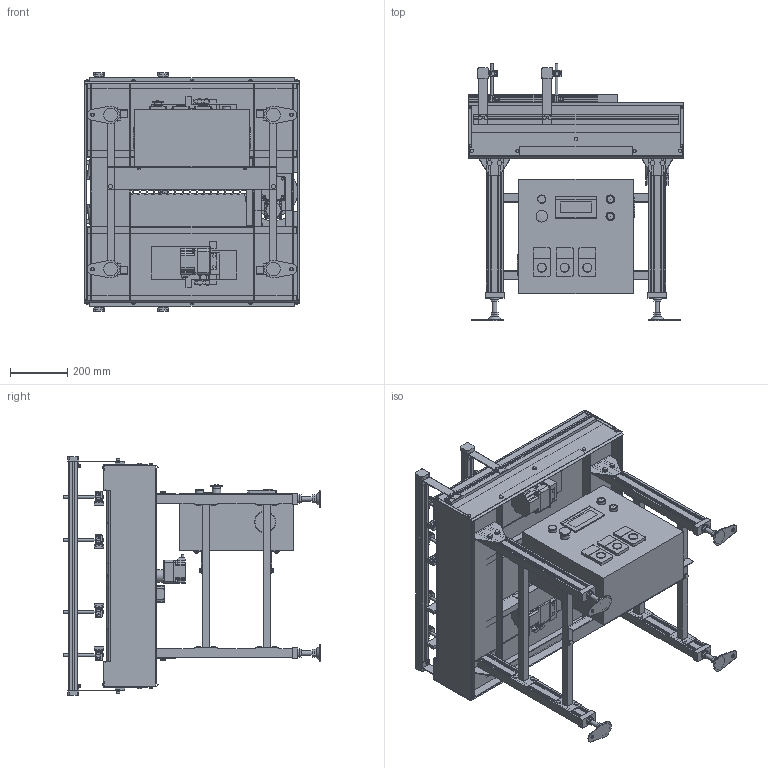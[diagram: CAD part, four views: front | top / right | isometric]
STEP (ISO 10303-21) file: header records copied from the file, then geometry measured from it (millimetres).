
FILE_DESCRIPTION( (''), '2;1');
FILE_NAME ('WEB-G2LS-H-F-3-600-75-DC-3.6.stp','2025-04-02T15:52:11',(''),(''),'spGate 20.6.2 (****-****-****-****)','','');
FILE_SCHEMA (('AUTOMOTIVE_DESIGN'));
Length unit declared in the file: millimetre
Products named in the file (66): WEB-G2LS-H-F-3-600-75-DC-3.6; TEMP_X_T-prt0; TEMP_X_T-prt1; TEMP_X_T-prt2; TEMP_X_T-prt3; TEMP_X_T-prt4; TEMP_X_T-prt5; TEMP_X_T-prt6; TEMP_X_T-prt7; TEMP_X_T-prt8; TEMP_X_T-prt9; TEMP_X_T-prt10; TEMP_X_T-prt11; TEMP_X_T-prt12; TEMP_X_T-prt13; TEMP_X_T-prt14; TEMP_X_T-prt15; TEMP_X_T-prt16; TEMP_X_T-prt17; TEMP_X_T-prt18; TEMP_X_T-prt19; TEMP_X_T-prt20; TEMP_X_T-prt21; TEMP_X_T-prt22; TEMP_X_T-prt23; TEMP_X_T-prt24; TEMP_X_T-prt25; TEMP_X_T-prt26; TEMP_X_T-prt27; TEMP_X_T-prt28; TEMP_X_T-prt29; TEMP_X_T-prt30; TEMP_X_T-prt31; TEMP_X_T-prt32; TEMP_X_T-prt33; TEMP_X_T-prt34; TEMP_X_T-prt35; TEMP_X_T-prt36; TEMP_X_T-prt37; TEMP_X_T-prt38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
Assembly tree (65 placements, depth 2):
  WEB-G2LS-H-F-3-600-75-DC-3.6
    TEMP_X_T-prt0
    TEMP_X_T-prt1
    TEMP_X_T-prt2
    TEMP_X_T-prt3
    TEMP_X_T-prt4
    TEMP_X_T-prt5
    TEMP_X_T-prt6
    TEMP_X_T-prt7
    TEMP_X_T-prt8
    TEMP_X_T-prt9
    TEMP_X_T-prt10
    TEMP_X_T-prt11
    TEMP_X_T-prt12
    TEMP_X_T-prt13
    TEMP_X_T-prt14
    TEMP_X_T-prt15
    TEMP_X_T-prt16
    TEMP_X_T-prt17
    TEMP_X_T-prt18
    TEMP_X_T-prt19
    TEMP_X_T-prt20
    TEMP_X_T-prt21
    TEMP_X_T-prt22
    TEMP_X_T-prt23
    TEMP_X_T-prt24
    TEMP_X_T-prt25
    TEMP_X_T-prt26
    TEMP_X_T-prt27
    TEMP_X_T-prt28
    TEMP_X_T-prt29
    TEMP_X_T-prt30
    TEMP_X_T-prt31
    TEMP_X_T-prt32
    TEMP_X_T-prt33
    TEMP_X_T-prt34
    TEMP_X_T-prt35
    TEMP_X_T-prt36
    TEMP_X_T-prt37
    TEMP_X_T-prt38
    TEMP_X_T-prt39
    TEMP_X_T-prt40
    TEMP_X_T-prt41
    TEMP_X_T-prt42
    TEMP_X_T-prt43
    TEMP_X_T-prt44
    TEMP_X_T-prt45
    TEMP_X_T-prt46
    TEMP_X_T-prt47
    TEMP_X_T-prt48
    TEMP_X_T-prt49
    TEMP_X_T-prt50
    TEMP_X_T-prt51
    TEMP_X_T-prt52
    TEMP_X_T-prt53
    TEMP_X_T-prt54
    TEMP_X_T-prt55
    TEMP_X_T-prt56
    TEMP_X_T-prt57
    TEMP_X_T-prt58
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Bounding box: 752.4 x 901.5 x 835 mm (x, y, z)
Volume: 55976977.4 mm3; surface area: 7672242.6 mm2
Topology: 65 solids, 69 shells, 3879 faces, 10197 edges, 6846 vertices
Faces by surface type: plane 2967, cylinder 865, bspline 27, sphere 20
Full cylindrical faces by diameter (mm): 5 x16, 6 x10, 7 x4, 8.4 x1, 8.42 x1, 8.5 x20, 9 x7, 9.2 x20, 9.4 x20, 10 x74, 11 x16, 12 x2, 12.2 x54, 12.5 x52, 13 x4, 15.4 x12, 16 x8, 17 x8, 20 x4, 21 x1, 22 x3, 25.4 x1, 28 x3, 28.5 x1, 29.5 x1, 30 x7, 32 x3, 36 x1, 38 x1, 40 x1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
Entity records: 206333 total; most frequent: CARTESIAN_POINT 26713, ORIENTED_EDGE 20350, DIRECTION 19441, COLOUR_RGB 14119, PRESENTATION_STYLE_ASSIGNMENT 14119, STYLED_ITEM 14119, EDGE_CURVE 10175, DRAUGHTING_PRE_DEFINED_CURVE_FONT 10175
